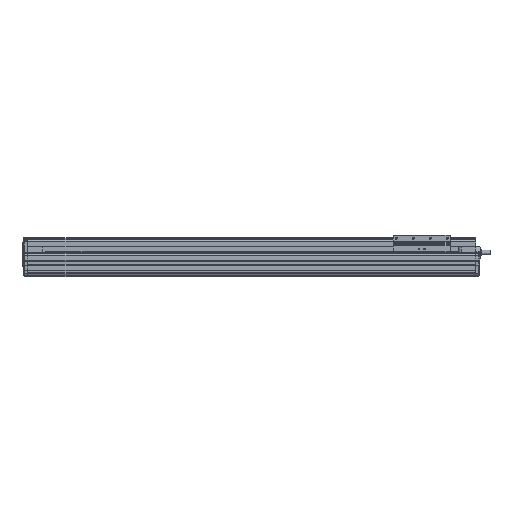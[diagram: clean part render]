
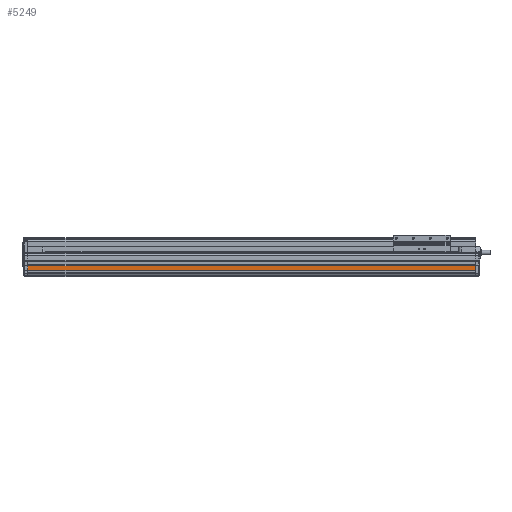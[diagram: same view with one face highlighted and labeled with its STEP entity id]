
A CAD part, left-side view. The second image highlights one B-rep face of the part: STEP entity #5249.
In plain terms, the highlighted planar face has unit normal (-1, 0, 0).
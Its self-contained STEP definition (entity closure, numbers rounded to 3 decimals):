
#5249=ADVANCED_FACE('',(#11489),#11490,.T.);
#11489=FACE_OUTER_BOUND('',#20061,.T.);
#11490=PLANE('',#20062);
#20061=EDGE_LOOP('',(#35697,#35698,#35699,#35700));
#20062=AXIS2_PLACEMENT_3D('',#35701,#35702,#35703);
#35697=ORIENTED_EDGE('',*,*,#49399,.T.);
#35698=ORIENTED_EDGE('',*,*,#51294,.F.);
#35699=ORIENTED_EDGE('',*,*,#51295,.T.);
#35700=ORIENTED_EDGE('',*,*,#51296,.T.);
#35701=CARTESIAN_POINT('',(-47.5,637.222,-27.287));
#35702=DIRECTION('',(-1.0,-0.0,0.0));
#35703=DIRECTION('',(0.0,0.,-1.0));
#49399=EDGE_CURVE('',#60729,#60727,#60730,.T.);
#51294=EDGE_CURVE('',#63385,#60727,#63386,.T.);
#51295=EDGE_CURVE('',#63385,#63387,#63388,.T.);
#51296=EDGE_CURVE('',#63387,#60729,#63389,.T.);
#60727=VERTEX_POINT('',#76616);
#60729=VERTEX_POINT('',#76618);
#60730=LINE('',#76619,#76620);
#63385=VERTEX_POINT('',#80633);
#63386=LINE('',#80634,#80635);
#63387=VERTEX_POINT('',#80636);
#63388=LINE('',#80637,#80638);
#63389=LINE('',#80639,#80640);
#76616=CARTESIAN_POINT('',(-47.5,-152.778,-23.124));
#76618=CARTESIAN_POINT('',(-47.5,-152.778,-31.45));
#76619=CARTESIAN_POINT('',(-47.5,-152.778,-23.124));
#76620=VECTOR('',#89697,1000.0);
#80633=CARTESIAN_POINT('',(-47.5,637.222,-23.124));
#80634=CARTESIAN_POINT('',(-47.5,637.222,-23.124));
#80635=VECTOR('',#91904,1000.0);
#80636=CARTESIAN_POINT('',(-47.5,637.222,-31.45));
#80637=CARTESIAN_POINT('',(-47.5,637.222,-23.124));
#80638=VECTOR('',#91905,1000.0);
#80639=CARTESIAN_POINT('',(-47.5,637.222,-31.45));
#80640=VECTOR('',#91906,1000.0);
#89697=DIRECTION('',(0.0,0.,1.0));
#91904=DIRECTION('',(0.0,-1.0,0.));
#91905=DIRECTION('',(0.0,0.,-1.0));
#91906=DIRECTION('',(0.0,-1.0,0.));
